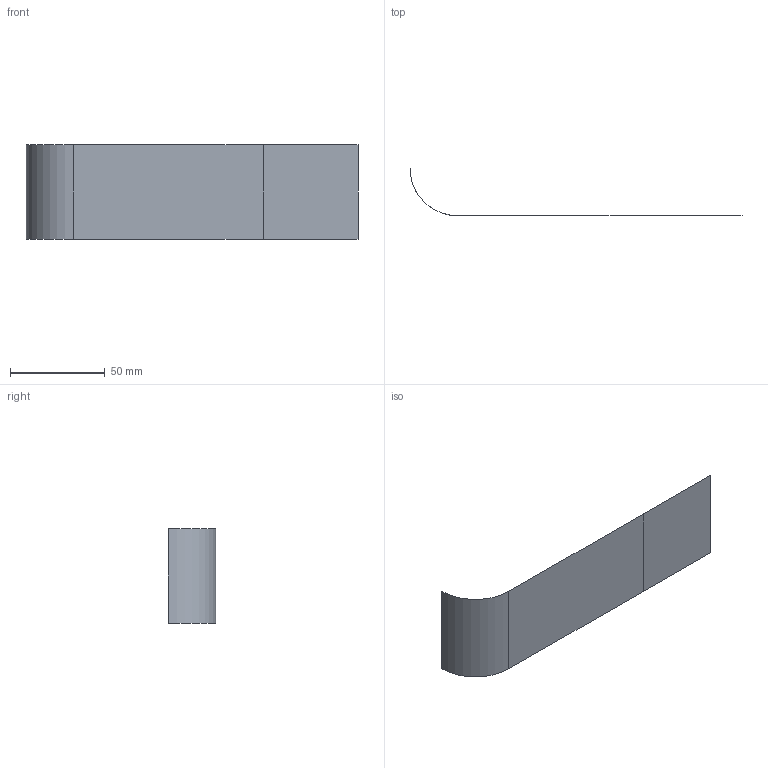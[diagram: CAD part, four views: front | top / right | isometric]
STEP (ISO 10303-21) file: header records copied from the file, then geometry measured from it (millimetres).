
FILE_DESCRIPTION (( 'STEP AP203' ), '1' );
FILE_NAME ('26.2.STEP', '2025-11-17T23:02:45', ( '' ), ( '' ), 'SwSTEP 2.0', 'SolidWorks 2025', '' );
FILE_SCHEMA (( 'CONFIG_CONTROL_DESIGN' ));
Length unit declared in the file: millimetre
Products named in the file (1): 26.2
Bounding box: 175 x 25 x 50 mm (x, y, z)
Surface area: 9463.5 mm2 (no closed solid volume)
Topology: 0 solids, 3 shells, 3 faces, 12 edges, 12 vertices
Faces by surface type: plane 2, cylinder 1
Entity records: 209 total; most frequent: CARTESIAN_POINT 28, DIRECTION 22, ORIENTED_EDGE 12, EDGE_CURVE 12, VERTEX_POINT 12, LINE 10, VECTOR 10, PERSON_AND_ORGANIZATION 8
